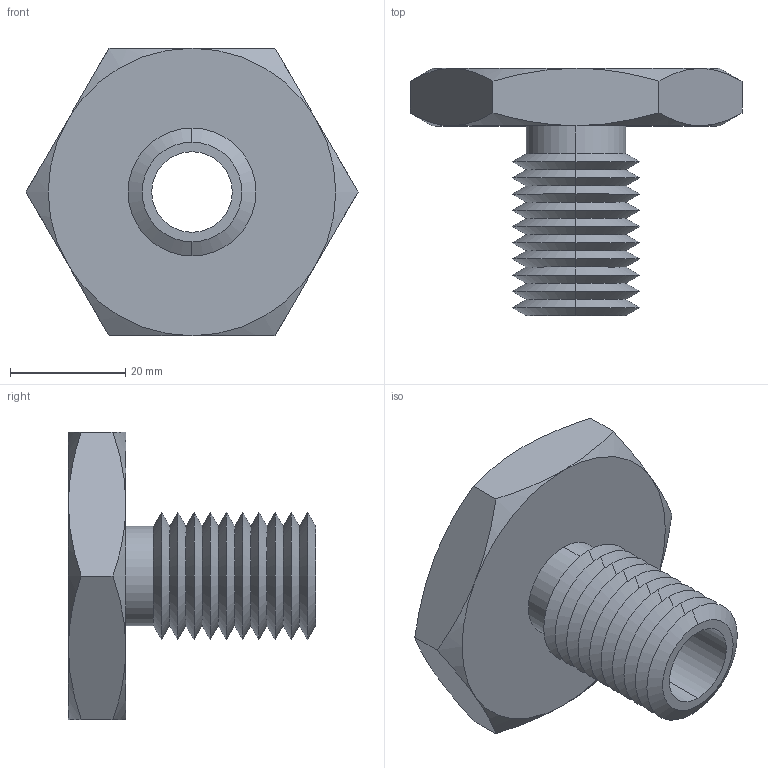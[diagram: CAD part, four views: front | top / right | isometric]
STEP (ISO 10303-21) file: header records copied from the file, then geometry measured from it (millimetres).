
FILE_DESCRIPTION (( 'STEP AP203' ), '1' );
FILE_NAME ('63302.W5088_M14x2.step', '2013-12-08T11:36:42', ( 'User' ), ( '' ), 'SwSTEP 2.0', 'SolidWorks 2009', '' );
FILE_SCHEMA (( 'CONFIG_CONTROL_DESIGN' ));
Length unit declared in the file: millimetre
Products named in the file (1): 63302.W5088_M14x2
Bounding box: 57.73 x 43 x 50 mm (x, y, z)
Volume: 24514 mm3; surface area: 11163.9 mm2
Topology: 1 solids, 1 shells, 67 faces, 138 edges, 74 vertices
Faces by surface type: cone 54, plane 9, cylinder 4
Entity records: 1939 total; most frequent: CARTESIAN_POINT 464, DIRECTION 312, ORIENTED_EDGE 276, EDGE_CURVE 138, AXIS2_PLACEMENT_3D 130, VERTEX_POINT 74, EDGE_LOOP 70, ADVANCED_FACE 67
